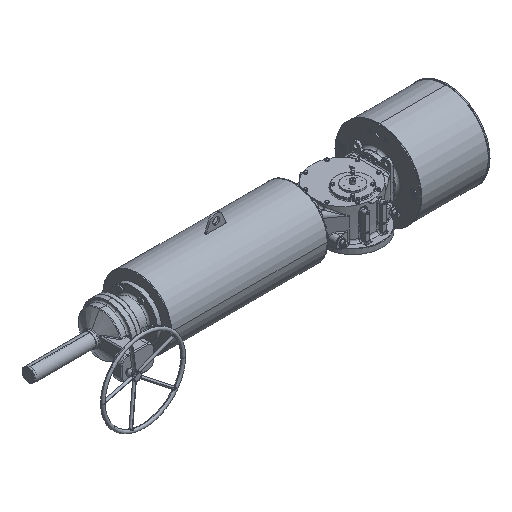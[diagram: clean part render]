
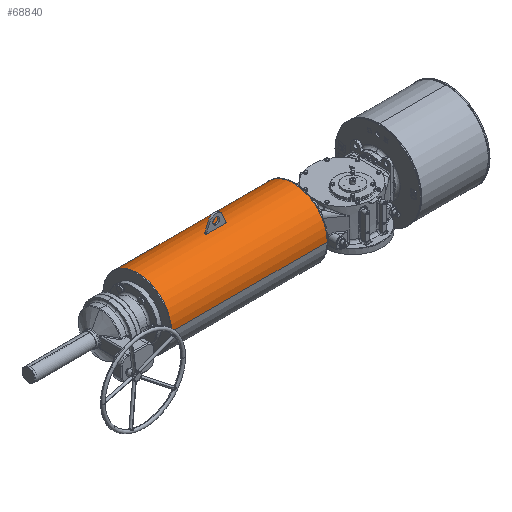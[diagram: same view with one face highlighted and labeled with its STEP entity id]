
A CAD part, isometric view. The second image highlights one B-rep face of the part: STEP entity #68840.
In plain terms, the highlighted cylindrical face has radius 203.2 mm (diameter 406.4 mm), a partial arc.
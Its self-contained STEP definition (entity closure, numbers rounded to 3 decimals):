
#150 = AXIS2_PLACEMENT_3D ( 'NONE', #25771, #11918, #53924 ) ;
#1980 = CARTESIAN_POINT ( 'NONE',  ( -248.3, 108., 82.5 ) ) ;
#2528 = DIRECTION ( 'NONE',  ( 1., 0., 0. ) ) ;
#4226 = EDGE_LOOP ( 'NONE', ( #48374, #53593, #15780, #7965, #73446 ) ) ;
#5054 = EDGE_LOOP ( 'NONE', ( #29278, #83758, #50820, #32982, #86040, #40442 ) ) ;
#6316 = CARTESIAN_POINT ( 'NONE',  ( -774., 108., 82.5 ) ) ;
#7965 = ORIENTED_EDGE ( 'NONE', *, *, #72160, .T. ) ;
#8936 = VERTEX_POINT ( 'NONE', #35908 ) ;
#11918 = DIRECTION ( 'NONE',  ( 1., 0., 0. ) ) ;
#12019 = VERTEX_POINT ( 'NONE', #76151 ) ;
#13210 = AXIS2_PLACEMENT_3D ( 'NONE', #35680, #14017, #77659 ) ;
#13298 = AXIS2_PLACEMENT_3D ( 'NONE', #51444, #2528, #30684 ) ;
#13423 = EDGE_CURVE ( 'NONE', #70341, #14976, #14646, .T. ) ;
#14017 = DIRECTION ( 'NONE',  ( 1., 0., 0. ) ) ;
#14646 = CIRCLE ( 'NONE', #13210, 203.2 ) ;
#14823 = VECTOR ( 'NONE', #82126, 1000. ) ;
#14976 = VERTEX_POINT ( 'NONE', #46729 ) ;
#15361 = CARTESIAN_POINT ( 'NONE',  ( -774., 108., 82.5 ) ) ;
#15780 = ORIENTED_EDGE ( 'NONE', *, *, #57073, .T. ) ;
#16496 = EDGE_CURVE ( 'NONE', #37536, #43382, #60639, .T. ) ;
#20861 = AXIS2_PLACEMENT_3D ( 'NONE', #79706, #57546, #72762 ) ;
#22927 = VERTEX_POINT ( 'NONE', #71142 ) ;
#23965 = VERTEX_POINT ( 'NONE', #50285 ) ;
#25735 = CIRCLE ( 'NONE', #72786, 203.2 ) ;
#25740 = CIRCLE ( 'NONE', #86112, 203.2 ) ;
#25771 = CARTESIAN_POINT ( 'NONE',  ( -1176.5, 108., 82.5 ) ) ;
#27434 = CARTESIAN_POINT ( 'NONE',  ( -774., 108., 285.7 ) ) ;
#28387 = AXIS2_PLACEMENT_3D ( 'NONE', #1980, #30141, #58273 ) ;
#28500 = EDGE_CURVE ( 'NONE', #43304, #75342, #72489, .T. ) ;
#29278 = ORIENTED_EDGE ( 'NONE', *, *, #88957, .T. ) ;
#29828 = CIRCLE ( 'NONE', #28387, 203.2 ) ;
#30141 = DIRECTION ( 'NONE',  ( -1., 0., 0. ) ) ;
#30684 = DIRECTION ( 'NONE',  ( 0., 0., -1. ) ) ;
#32296 = LINE ( 'NONE', #61367, #14823 ) ;
#32299 = LINE ( 'NONE', #32756, #59468 ) ;
#32367 = DIRECTION ( 'NONE',  ( 1., 0., 0. ) ) ;
#32756 = CARTESIAN_POINT ( 'NONE',  ( -1176.5, -95.2, 82.5 ) ) ;
#32982 = ORIENTED_EDGE ( 'NONE', *, *, #28500, .F. ) ;
#34467 = DIRECTION ( 'NONE',  ( 0., 0., 1. ) ) ;
#35680 = CARTESIAN_POINT ( 'NONE',  ( -654., 108., 82.5 ) ) ;
#35908 = CARTESIAN_POINT ( 'NONE',  ( -774., 113., 285.638 ) ) ;
#37536 = VERTEX_POINT ( 'NONE', #38578 ) ;
#37883 = DIRECTION ( 'NONE',  ( -1., 0., 0. ) ) ;
#38499 = EDGE_CURVE ( 'NONE', #55929, #8936, #25740, .T. ) ;
#38578 = CARTESIAN_POINT ( 'NONE',  ( -1179.7, 311.2, 82.5 ) ) ;
#40442 = ORIENTED_EDGE ( 'NONE', *, *, #38499, .T. ) ;
#41391 = DIRECTION ( 'NONE',  ( -1., 0., 0. ) ) ;
#43304 = VERTEX_POINT ( 'NONE', #79748 ) ;
#43382 = VERTEX_POINT ( 'NONE', #87941 ) ;
#44028 = CARTESIAN_POINT ( 'NONE',  ( -1176.5, 113., 285.638 ) ) ;
#46729 = CARTESIAN_POINT ( 'NONE',  ( -654., 108., 285.7 ) ) ;
#46985 = CARTESIAN_POINT ( 'NONE',  ( -654., 113., 285.638 ) ) ;
#47430 = CYLINDRICAL_SURFACE ( 'NONE', #150, 203.2 ) ;
#48374 = ORIENTED_EDGE ( 'NONE', *, *, #16496, .T. ) ;
#50285 = CARTESIAN_POINT ( 'NONE',  ( -248.3, 311.2, 82.5 ) ) ;
#50820 = ORIENTED_EDGE ( 'NONE', *, *, #65411, .T. ) ;
#51444 = CARTESIAN_POINT ( 'NONE',  ( -654., 108., 82.5 ) ) ;
#52192 = VECTOR ( 'NONE', #32367, 1000. ) ;
#53593 = ORIENTED_EDGE ( 'NONE', *, *, #78544, .T. ) ;
#53924 = DIRECTION ( 'NONE',  ( 0., 1., 0. ) ) ;
#55377 = EDGE_CURVE ( 'NONE', #37536, #23965, #32296, .T. ) ;
#55929 = VERTEX_POINT ( 'NONE', #27434 ) ;
#57073 = EDGE_CURVE ( 'NONE', #12019, #22927, #29828, .T. ) ;
#57546 = DIRECTION ( 'NONE',  ( 1., 0., 0. ) ) ;
#58273 = DIRECTION ( 'NONE',  ( 0., 1., 0. ) ) ;
#59468 = VECTOR ( 'NONE', #83021, 1000. ) ;
#59699 = LINE ( 'NONE', #44028, #85581 ) ;
#60639 = CIRCLE ( 'NONE', #20861, 203.2 ) ;
#61367 = CARTESIAN_POINT ( 'NONE',  ( -1176.5, 311.2, 82.5 ) ) ;
#65411 = EDGE_CURVE ( 'NONE', #14976, #75342, #88390, .T. ) ;
#65518 = DIRECTION ( 'NONE',  ( 0., 1., 0. ) ) ;
#68840 = ADVANCED_FACE ( 'NONE', ( #88982, #82065 ), #47430, .T. ) ;
#69147 = CIRCLE ( 'NONE', #83700, 203.2 ) ;
#70341 = VERTEX_POINT ( 'NONE', #46985 ) ;
#71142 = CARTESIAN_POINT ( 'NONE',  ( -248.3, 108., 285.7 ) ) ;
#71166 = DIRECTION ( 'NONE',  ( 0., 0., 1. ) ) ;
#71629 = DIRECTION ( 'NONE',  ( -1., 0., 0. ) ) ;
#71978 = CARTESIAN_POINT ( 'NONE',  ( -248.3, 108., 82.5 ) ) ;
#72160 = EDGE_CURVE ( 'NONE', #22927, #23965, #25735, .T. ) ;
#72489 = LINE ( 'NONE', #74340, #52192 ) ;
#72762 = DIRECTION ( 'NONE',  ( 0., 1., 0. ) ) ;
#72786 = AXIS2_PLACEMENT_3D ( 'NONE', #71978, #37883, #65518 ) ;
#73446 = ORIENTED_EDGE ( 'NONE', *, *, #55377, .F. ) ;
#74340 = CARTESIAN_POINT ( 'NONE',  ( -1176.5, 103., 285.638 ) ) ;
#75342 = VERTEX_POINT ( 'NONE', #81047 ) ;
#76151 = CARTESIAN_POINT ( 'NONE',  ( -248.3, -95.2, 82.5 ) ) ;
#77659 = DIRECTION ( 'NONE',  ( 0., 0., -1. ) ) ;
#78544 = EDGE_CURVE ( 'NONE', #43382, #12019, #32299, .T. ) ;
#79706 = CARTESIAN_POINT ( 'NONE',  ( -1179.7, 108., 82.5 ) ) ;
#79748 = CARTESIAN_POINT ( 'NONE',  ( -774., 103., 285.638 ) ) ;
#81047 = CARTESIAN_POINT ( 'NONE',  ( -654., 103., 285.638 ) ) ;
#82065 = FACE_OUTER_BOUND ( 'NONE', #4226, .T. ) ;
#82126 = DIRECTION ( 'NONE',  ( 1., 0., 0. ) ) ;
#83021 = DIRECTION ( 'NONE',  ( 1., 0., 0. ) ) ;
#83700 = AXIS2_PLACEMENT_3D ( 'NONE', #15361, #71629, #71166 ) ;
#83758 = ORIENTED_EDGE ( 'NONE', *, *, #13423, .T. ) ;
#85144 = EDGE_CURVE ( 'NONE', #43304, #55929, #69147, .T. ) ;
#85581 = VECTOR ( 'NONE', #86002, 1000. ) ;
#86002 = DIRECTION ( 'NONE',  ( 1., 0., 0. ) ) ;
#86040 = ORIENTED_EDGE ( 'NONE', *, *, #85144, .T. ) ;
#86112 = AXIS2_PLACEMENT_3D ( 'NONE', #6316, #41391, #34467 ) ;
#87941 = CARTESIAN_POINT ( 'NONE',  ( -1179.7, -95.2, 82.5 ) ) ;
#88390 = CIRCLE ( 'NONE', #13298, 203.2 ) ;
#88957 = EDGE_CURVE ( 'NONE', #8936, #70341, #59699, .T. ) ;
#88982 = FACE_BOUND ( 'NONE', #5054, .T. ) ;
